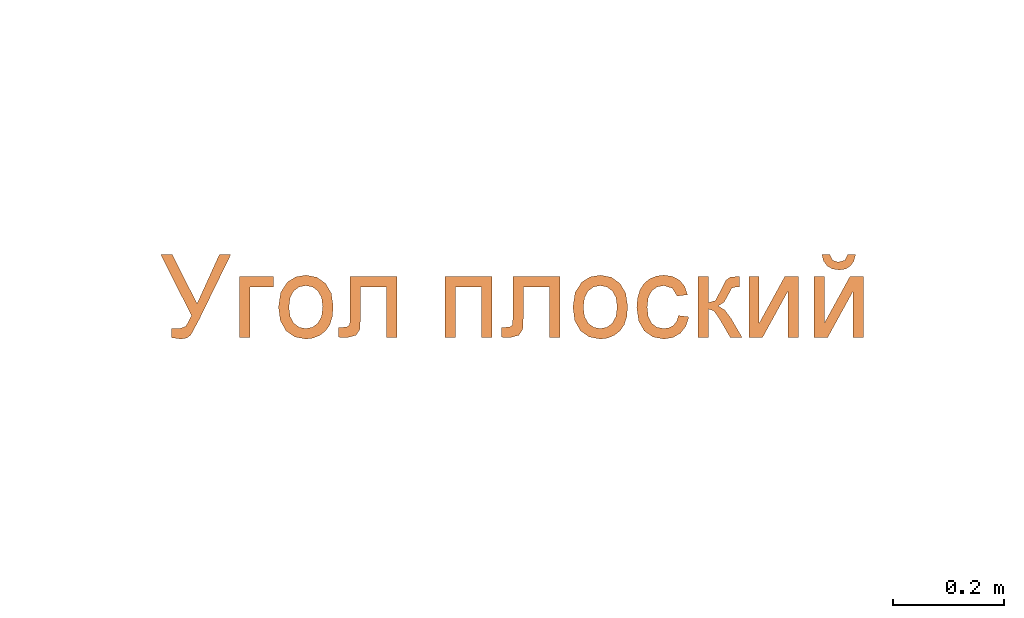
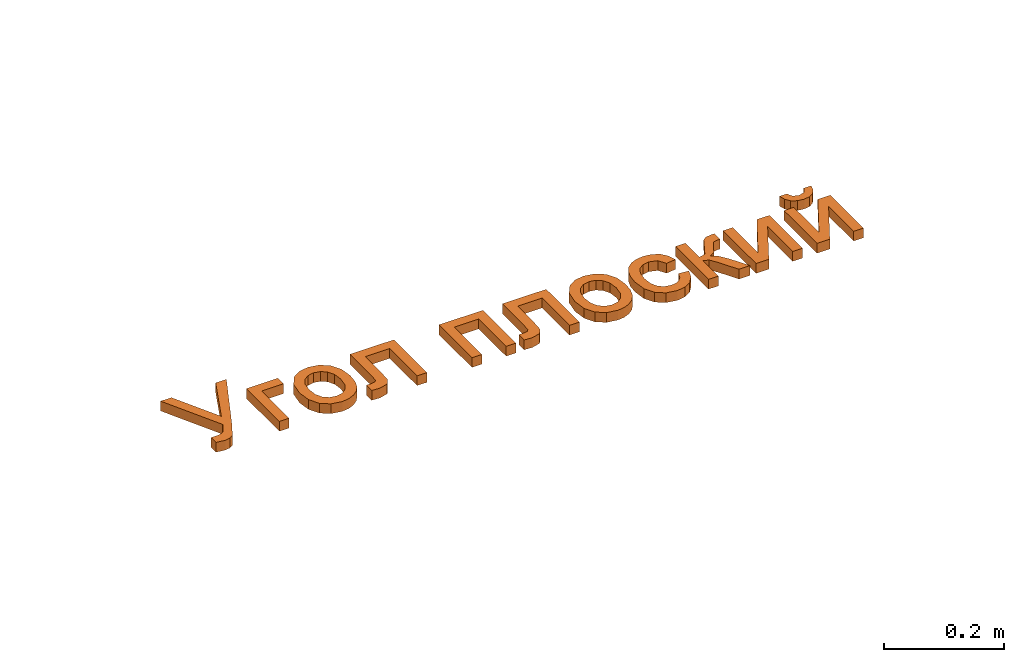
# One storey, part 25 of 87: 1 proxy.
"""IFC2X3 building model written with IfcOpenShell, lengths in millimetres."""

from ifc_helpers import new_model, entity, si_unit, converted_unit, derived_unit, direction, frame, origin, place, context, subcontext, project, spatial, polyline, outline, extrude, element, save


model = new_model("IFC2X3")

# Units and contexts
model_context = context("Model", 3, precision=0.01, world=origin(), true_north=direction((6.12303176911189e-17, 1.0)))
body_context = subcontext(model_context, "Body", "Model", "MODEL_VIEW")
ifc_project = project(units=[si_unit("LENGTHUNIT", "METRE", prefix="MILLI"), si_unit("AREAUNIT", "SQUARE_METRE"), si_unit("VOLUMEUNIT", "CUBIC_METRE"), converted_unit("PLANEANGLEUNIT", "DEGREE", entity("IfcRatioMeasure", 0.0174532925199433), si_unit("PLANEANGLEUNIT", "RADIAN"), dimensions=[0, 0, 0, 0, 0, 0, 0]), si_unit("MASSUNIT", "GRAM", prefix="KILO"), derived_unit("MASSDENSITYUNIT", [(si_unit("MASSUNIT", "GRAM", prefix="KILO"), 1), (si_unit("LENGTHUNIT", "METRE"), -3)]), si_unit("TIMEUNIT", "SECOND"), si_unit("FREQUENCYUNIT", "HERTZ"), si_unit("THERMODYNAMICTEMPERATUREUNIT", "DEGREE_CELSIUS"), derived_unit("THERMALTRANSMITTANCEUNIT", [(si_unit("MASSUNIT", "GRAM", prefix="KILO"), 1), (si_unit("THERMODYNAMICTEMPERATUREUNIT", "KELVIN"), -1), (si_unit("TIMEUNIT", "SECOND"), -3)]), derived_unit("VOLUMETRICFLOWRATEUNIT", [(si_unit("LENGTHUNIT", "METRE"), 3), (si_unit("TIMEUNIT", "SECOND"), -1)]), si_unit("ELECTRICCURRENTUNIT", "AMPERE"), si_unit("ELECTRICVOLTAGEUNIT", "VOLT"), si_unit("POWERUNIT", "WATT"), si_unit("FORCEUNIT", "NEWTON", prefix="KILO"), si_unit("ILLUMINANCEUNIT", "LUX"), si_unit("LUMINOUSFLUXUNIT", "LUMEN"), si_unit("LUMINOUSINTENSITYUNIT", "CANDELA"), derived_unit("USERDEFINED", [(si_unit("MASSUNIT", "GRAM", prefix="KILO"), -1), (si_unit("LENGTHUNIT", "METRE"), -2), (si_unit("TIMEUNIT", "SECOND"), 3), (si_unit("LUMINOUSFLUXUNIT", "LUMEN"), 1)]), derived_unit("LINEARVELOCITYUNIT", [(si_unit("LENGTHUNIT", "METRE"), 1), (si_unit("TIMEUNIT", "SECOND"), -1)]), si_unit("PRESSUREUNIT", "PASCAL"), derived_unit("USERDEFINED", [(si_unit("LENGTHUNIT", "METRE"), -2), (si_unit("MASSUNIT", "GRAM", prefix="KILO"), 1), (si_unit("TIMEUNIT", "SECOND"), -2)])], contexts=[model_context])

# Site, building, storey
site_placement = place(None, origin())
site = spatial("IfcSite", under=ifc_project, at=site_placement, Name="Default", CompositionType="ELEMENT")
building_placement = place(site_placement, origin())
building = spatial("IfcBuilding", under=site, at=building_placement, Name="Наименование здания", CompositionType="ELEMENT")
storey_placement = place(building_placement, origin())
storey = spatial("IfcBuildingStorey", under=building, at=storey_placement, Name="Этаж 01", CompositionType="ELEMENT", Elevation=0.0)

# Proxy
proxy_placement = place(storey_placement, origin())
element("IfcBuildingElementProxy", 1, at=proxy_placement, inside=storey, Name="Текст модели:150 мм Arial", ObjectType="Текст модели:150 мм Arial", context=body_context, shape_type="SweptSolid", body=[
    extrude(outline(polyline([(-106.701123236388, 2.54904117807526), (-97.2962411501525, -16.0692907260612), (2.68445330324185, -16.0537927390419), (-58.6980742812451, -92.4799756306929), (-49.3761276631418, -110.934124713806), (29.6124181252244, -6.94385161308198), (48.3399438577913, 19.9502964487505), (49.5661580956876, 28.8436959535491), (46.5690129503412, 38.5506036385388), (36.8208226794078, 52.6266857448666), (22.1100419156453, 45.1956678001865), (28.7946406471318, 31.9625324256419), (30.0108133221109, 20.2534710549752), (17.5632614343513, 2.54904117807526), (-106.701123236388, 2.54904117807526)])), frame((8932.24141356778, -4296.98899174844, 0.0), z_axis=(0.0, 0.0, -1.0), x_axis=(0.450880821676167, -0.892584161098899, 0.0)), (0.0, 0.0, -1.0), 20.0),
    extrude(outline(polyline([(-43.1648207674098, -26.6837073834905), (67.4940833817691, -26.6837073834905), (67.4940833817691, -7.84814923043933), (-24.3292626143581, -7.84814923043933), (-24.3292626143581, 34.5318566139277), (-43.1648207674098, 34.5318566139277), (-43.1648207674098, -26.6837073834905)])), frame((9050.9843055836, -4286.08895479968, 0.0), z_axis=(0.0, 0.0, 1.0), x_axis=(0.0, -1.0, 0.0)), (0.0, 0.0, 1.0), 20.0),
    extrude(outline(polyline([(-11.194600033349, -52.2426443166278), (13.7256178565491, -52.2426443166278), (33.0962748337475, -44.5759588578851), (46.3022849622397, -30.4665992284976), (52.7285623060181, -11.1385767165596), (52.879570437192, 2.26160042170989), (49.5396030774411, 15.0586597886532), (42.9102470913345, 26.3612191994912), (33.1930893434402, 35.2778964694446), (19.472491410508, 41.8007990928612), (0.832814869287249, 45.9220345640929), (-22.8762356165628, 45.7172545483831), (-41.8930612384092, 37.8901775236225), (-55.142589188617, 23.7682718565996), (-61.5497466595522, 4.67900591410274), (-60.9951142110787, -13.6515433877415), (-53.9645370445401, -29.8701936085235), (-37.0646721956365, -44.5487589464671), (-11.194600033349, -52.2426443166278)]), holes=[polyline([(-8.64857835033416, -33.5799173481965), (-25.2263685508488, -29.0848574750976), (-36.3325046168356, -20.9461821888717), (-42.1575488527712, -10.2052592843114), (-42.8920635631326, 2.09654344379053), (-38.8516378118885, 13.6120893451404), (-30.3014219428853, 22.3586496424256), (-17.5331679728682, 27.2345846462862), (-0.838627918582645, 27.1382546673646), (16.1172354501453, 22.590864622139), (27.4101305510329, 14.4263394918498), (33.3060231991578, 3.69417972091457), (34.0708792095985, -8.5561142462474), (30.0134303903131, -20.1946478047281), (21.4625840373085, -28.9457632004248), (8.53602088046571, -33.7580048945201), (-8.64857835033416, -33.5799173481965)])]), frame((9148.2180716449, -4302.17970451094, 0.0), z_axis=(0.0, 0.0, 1.0), x_axis=(0.137105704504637, -0.990556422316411, 0.0)), (0.0, 0.0, 1.0), 20.0),
    extrude(outline(polyline([(-74.0534959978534, 18.8171640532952), (-74.0534959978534, -65.9428476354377), (36.4950435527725, -65.9428476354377), (36.4950435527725, -47.1072894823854), (-55.2179378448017, -47.1072894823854), (-55.2179378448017, -0.0183940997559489), (-2.42687153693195, -0.0183940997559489), (21.9269165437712, 1.25079878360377), (32.2092183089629, 8.22216259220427), (36.6054081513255, 24.7032759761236), (35.6489149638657, 40.0071669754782), (17.7698499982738, 40.0071669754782), (17.7698499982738, 31.5826692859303), (16.6110217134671, 23.0662010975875), (12.9322017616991, 19.663292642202), (-3.49372932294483, 18.8171640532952), (-74.0534959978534, 18.8171640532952)])), frame((9243.24556762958, -4316.97763003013, 0.0), z_axis=(0.0, 0.0, -1.0), x_axis=(0.0, -1.0, 0.0)), (0.0, 0.0, -1.0), 20.0),
    extrude(outline(polyline([(-60.0383416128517, -42.380005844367), (50.6205625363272, -42.380005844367), (50.6205625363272, -23.5444476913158), (-41.2027834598, -23.5444476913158), (-41.2027834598, 23.5444476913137), (50.6205625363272, 23.5444476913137), (50.6205625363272, 42.3800058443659), (-60.0383416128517, 42.3800058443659), (-60.0383416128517, -42.380005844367)])), frame((9438.68287756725, -4302.96247564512, 0.0), z_axis=(0.0, 0.0, 1.0), x_axis=(0.0, -1.0, 0.0)), (0.0, 0.0, 1.0), 20.0),
    extrude(outline(polyline([(-74.0534959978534, 18.8171640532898), (-74.0534959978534, -65.9428476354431), (36.4950435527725, -65.9428476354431), (36.4950435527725, -47.1072894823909), (-55.2179378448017, -47.1072894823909), (-55.2179378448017, -0.0183940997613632), (-2.42687153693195, -0.0183940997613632), (21.9269165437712, 1.25079878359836), (32.2092183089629, 8.22216259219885), (36.6054081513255, 24.7032759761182), (35.6489149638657, 40.0071669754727), (17.7698499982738, 40.0071669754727), (17.7698499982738, 31.5826692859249), (16.6110217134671, 23.0662010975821), (12.9322017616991, 19.6632926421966), (-3.49372932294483, 18.8171640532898), (-74.0534959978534, 18.8171640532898)])), frame((9537.551163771, -4316.97763003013, 0.0), z_axis=(0.0, 0.0, -1.0), x_axis=(0.0, -1.0, 0.0)), (0.0, 0.0, -1.0), 20.0),
    extrude(outline(polyline([(-11.1946000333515, -52.2426443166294), (13.7256178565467, -52.2426443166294), (33.0962748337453, -44.5759588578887), (46.3022849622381, -30.4665992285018), (52.7285623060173, -11.138576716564), (52.8795704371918, 2.26160042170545), (49.5396030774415, 15.0586597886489), (42.9102470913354, 26.3612191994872), (33.1930893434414, 35.2778964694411), (19.4724914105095, 41.8007990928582), (0.832814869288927, 45.9220345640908), (-22.8762356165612, 45.7172545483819), (-41.8930612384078, 37.8901775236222), (-55.1425891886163, 23.7682718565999), (-61.5497466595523, 4.67900591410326), (-60.9951142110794, -13.6515433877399), (-53.9645370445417, -29.8701936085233), (-37.0646721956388, -44.5487589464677), (-11.1946000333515, -52.2426443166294)]), holes=[polyline([(-8.6485783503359, -33.5799173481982), (-25.2263685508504, -29.0848574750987), (-36.3325046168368, -20.9461821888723), (-42.1575488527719, -10.2052592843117), (-42.8920635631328, 2.09654344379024), (-38.8516378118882, 13.6120893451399), (-30.3014219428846, 22.3586496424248), (-17.5331679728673, 27.2345846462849), (-0.838627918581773, 27.1382546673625), (16.117235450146, 22.5908646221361), (27.4101305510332, 14.4263394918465), (33.3060231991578, 3.69417972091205), (34.0708792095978, -8.55611424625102), (30.013430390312, -20.1946478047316), (21.462584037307, -28.9457632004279), (8.53602088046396, -33.7580048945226), (-8.6485783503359, -33.5799173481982)])]), frame((9680.32258946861, -4302.17970451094, 0.0), z_axis=(0.0, 0.0, 1.0), x_axis=(0.13710570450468, -0.990556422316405, 0.0)), (0.0, 0.0, 1.0), 20.0),
    extrude(outline(polyline([(6.7721843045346, -32.6880162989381), (3.47919135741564, -51.3823432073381), (21.0352248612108, -51.2935104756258), (36.0385414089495, -45.5877688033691), (47.6356474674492, -34.9742466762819), (54.9730495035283, -20.1620725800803), (57.3315572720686, 0.0758389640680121), (51.3286597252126, 18.3174486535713), (37.081059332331, 33.285426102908), (14.7054585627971, 43.7024409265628), (-1.7374678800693, 47.2596707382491), (-16.8916566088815, 47.4079950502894), (-30.2412319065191, 43.9163864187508), (-41.2703180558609, 36.5538173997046), (-49.6896409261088, 26.2753303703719), (-55.2099263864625, 14.0359677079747), (-57.6963038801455, -1.85137033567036), (-54.848601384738, -16.0419747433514), (-46.8993177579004, -28.0408309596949), (-34.0809518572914, -37.3529244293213), (-26.2876013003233, -20.0443904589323), (-37.1997991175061, -7.54215198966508), (-37.2518019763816, 8.35215978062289), (-31.4457718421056, 19.3006318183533), (-21.9310317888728, 26.4799459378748), (-8.59621128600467, 28.9704724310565), (8.67006019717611, 25.8525815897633), (24.9370752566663, 18.6926998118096), (34.6412636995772, 9.25213062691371), (38.4812527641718, -1.85665774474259), (37.1556696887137, -14.0211970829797), (32.9052994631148, -22.9177981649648), (26.4119100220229, -29.28567407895), (17.6945290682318, -32.6880162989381), (6.7721843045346, -32.6880162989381)])), frame((9788.50105527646, -4297.4653448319, 0.0), z_axis=(0.0, 0.0, -1.0), x_axis=(-0.294292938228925, -0.955715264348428, 0.0)), (0.0, 0.0, -1.0), 20.0),
    extrude(outline(polyline([(-45.4943568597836, -44.3029556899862), (65.1645472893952, -44.3029556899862), (65.1645472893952, -25.4673975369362), (13.3667623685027, -25.4673975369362), (16.8432472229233, -15.3506426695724), (31.2090391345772, -5.41782879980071), (65.1645472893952, 14.3374343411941), (65.1645472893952, 35.748166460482), (30.4732751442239, 15.5882331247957), (15.0314283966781, 3.9263738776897), (7.70137964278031, -7.95621456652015), (1.13468602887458, 2.69396919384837), (-12.2746126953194, 10.2907323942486), (-24.6722359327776, 16.7654555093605), (-26.658798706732, 25.9625053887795), (-26.5484341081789, 31.0392769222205), (-45.4943568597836, 31.0392769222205), (-45.4943568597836, 27.4340333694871), (-44.0596170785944, 13.6568526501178), (-38.5229930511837, 6.07848354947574), (-21.5084507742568, -2.51156103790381), (-1.78997583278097, -12.8490451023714), (1.59453852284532, -25.4673975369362), (-45.4943568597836, -25.4673975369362), (-45.4943568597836, -44.3029556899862)])), frame((9897.36811262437, -4288.41849089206, 0.0), z_axis=(0.0, 0.0, 1.0), x_axis=(0.0, -1.0, 0.0)), (0.0, 0.0, 1.0), 20.0),
    extrude(outline(polyline([(-55.3809555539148, -44.7638811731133), (55.2779485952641, -44.7638811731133), (55.2779485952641, -20.1157874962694), (-28.5991463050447, 25.8694619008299), (55.2779485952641, 25.8694619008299), (55.2779485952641, 44.7050200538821), (-55.3809555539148, 44.7050200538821), (-55.3809555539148, 20.3512319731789), (29.0111741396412, -25.9283230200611), (-55.3809555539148, -25.9283230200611), (-55.3809555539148, -44.7638811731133)])), frame((9989.65238410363, -4298.30508958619, 0.0), z_axis=(0.0, 0.0, 1.0), x_axis=(0.0, -1.0, 0.0)), (0.0, 0.0, 1.0), 20.0),
    extrude(outline(polyline([(-18.9086812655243, -8.80638330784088), (-25.1654169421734, -21.4719280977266), (-13.0047964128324, -24.0889504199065), (-2.33253524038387, -22.5548007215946), (6.51477397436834, -17.0109446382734), (13.200538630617, -7.59884780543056), (17.0548336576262, 4.29420862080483), (16.4301190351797, 15.3019521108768), (11.3772556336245, 25.1120324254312), (1.94710432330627, 33.4120993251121), (-4.3096313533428, 20.7465545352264), (2.8597429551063, 11.2962766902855), (1.28449863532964, 0.17511459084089), (-6.94780563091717, -8.80638330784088), (-18.9086812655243, -8.80638330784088)])), frame((10107.5560672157, -4215.95115753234, 0.0), z_axis=(0.0, 0.0, -1.0), x_axis=(-0.442902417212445, -0.896569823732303, 0.0)), (0.0, 0.0, -1.0), 20.0),
    extrude(outline(polyline([(-55.3809555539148, -44.7638811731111), (55.2779485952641, -44.7638811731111), (55.2779485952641, -20.1157874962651), (-28.5991463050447, 25.8694619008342), (55.2779485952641, 25.8694619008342), (55.2779485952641, 44.7050200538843), (-55.3809555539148, 44.7050200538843), (-55.3809555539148, 20.3512319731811), (29.0111741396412, -25.9283230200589), (-55.3809555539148, -25.9283230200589), (-55.3809555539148, -44.7638811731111)])), frame((10107.3746225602, -4298.30508958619, 0.0), z_axis=(0.0, 0.0, 1.0), x_axis=(0.0, -1.0, 0.0)), (0.0, 0.0, 1.0), 20.0),
])

save(model, "model.ifc")
